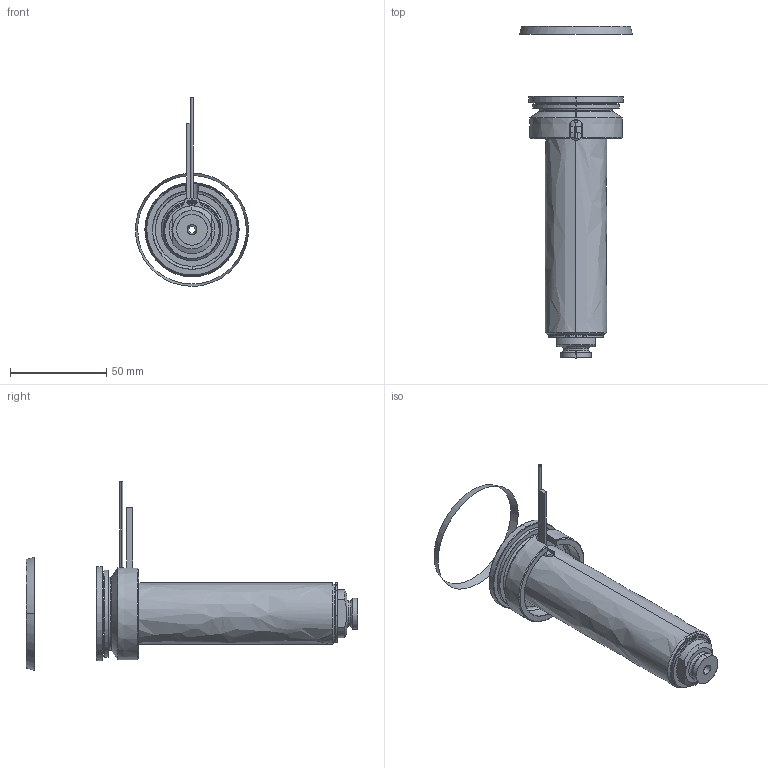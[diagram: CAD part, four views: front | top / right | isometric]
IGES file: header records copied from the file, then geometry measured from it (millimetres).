
Start section: SolidWorks IGES file using analytic representation for surfaces
Global section: file name: C:\Documents and Settings\ws-20\Desktop\TEMPORANEA\UGBE5003-S-A-5 [Ød-3.5 P-0 ØC-12].IGS; native system: SolidWorks 2012; preprocessor: SolidWorks 2012; author: ws-20; date: 120306.145632; units: millimetre
Bounding box: 58.79 x 172.44 x 98.01 mm (x, y, z)
Surface area: 51640.6 mm2 (no closed solid volume)
Topology: 0 solids, 0 shells, 113 faces, 2130 edges, 2130 vertices
Faces by surface type: revolution 70, bspline 43
